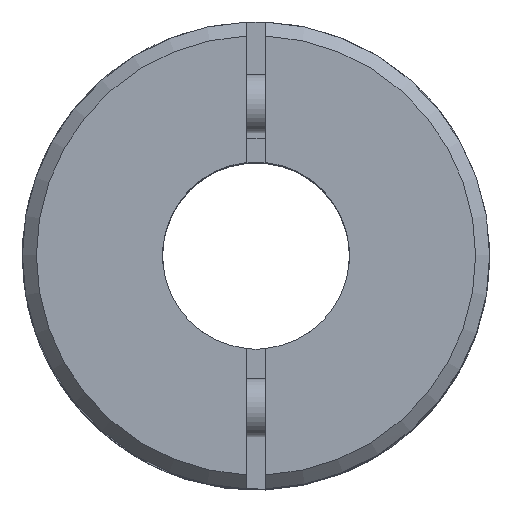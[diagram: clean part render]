
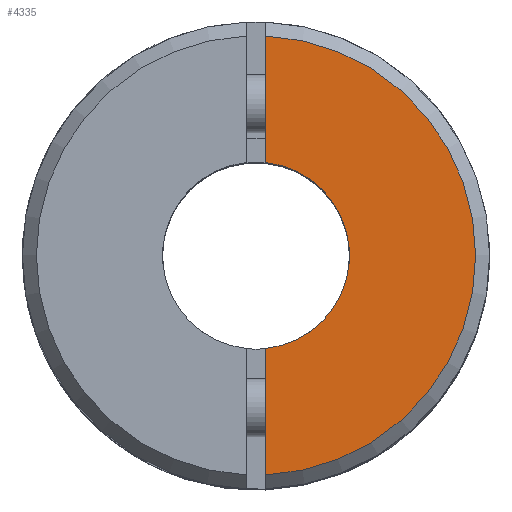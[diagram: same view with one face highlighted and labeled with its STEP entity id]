
A CAD part, top view. The second image highlights one B-rep face of the part: STEP entity #4335.
In plain terms, the highlighted planar face has unit normal (0, 0, 1).
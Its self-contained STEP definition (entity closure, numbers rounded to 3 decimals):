
#258 = CIRCLE ( 'NONE', #3426, 4. ) ;
#340 = VECTOR ( 'NONE', #1453, 1000. ) ;
#626 = CARTESIAN_POINT ( 'NONE',  ( 0.4, -3.98, 13. ) ) ;
#688 = EDGE_CURVE ( 'NONE', #1667, #1467, #4259, .T. ) ;
#691 = CARTESIAN_POINT ( 'NONE',  ( 0.4, 3.98, 13. ) ) ;
#747 = DIRECTION ( 'NONE',  ( 0., -1., 0. ) ) ;
#767 = ORIENTED_EDGE ( 'NONE', *, *, #688, .T. ) ;
#838 = DIRECTION ( 'NONE',  ( 0., 0., 1. ) ) ;
#888 = DIRECTION ( 'NONE',  ( 0., 0., 1. ) ) ;
#1039 = CARTESIAN_POINT ( 'NONE',  ( 0.4, -9.391, 13. ) ) ;
#1112 = EDGE_LOOP ( 'NONE', ( #767, #4209, #4140, #1451 ) ) ;
#1156 = DIRECTION ( 'NONE',  ( 0., 1., 0. ) ) ;
#1209 = EDGE_CURVE ( 'NONE', #1667, #1871, #258, .T. ) ;
#1274 = DIRECTION ( 'NONE',  ( 0., 0., -1. ) ) ;
#1451 = ORIENTED_EDGE ( 'NONE', *, *, #1209, .F. ) ;
#1453 = DIRECTION ( 'NONE',  ( 0., -1., 0. ) ) ;
#1467 = VERTEX_POINT ( 'NONE', #1039 ) ;
#1603 = DIRECTION ( 'NONE',  ( 0., 1., 0. ) ) ;
#1667 = VERTEX_POINT ( 'NONE', #626 ) ;
#1743 = EDGE_CURVE ( 'NONE', #4340, #1871, #2752, .T. ) ;
#1871 = VERTEX_POINT ( 'NONE', #691 ) ;
#2148 = CARTESIAN_POINT ( 'NONE',  ( 0.4, 9.391, 13. ) ) ;
#2443 = AXIS2_PLACEMENT_3D ( 'NONE', #3311, #1274, #1603 ) ;
#2752 = LINE ( 'NONE', #3074, #3645 ) ;
#2787 = FACE_OUTER_BOUND ( 'NONE', #1112, .T. ) ;
#3074 = CARTESIAN_POINT ( 'NONE',  ( 0.4, 15., 13. ) ) ;
#3097 = AXIS2_PLACEMENT_3D ( 'NONE', #4186, #838, #1156 ) ;
#3311 = CARTESIAN_POINT ( 'NONE',  ( 0., 4., 13. ) ) ;
#3426 = AXIS2_PLACEMENT_3D ( 'NONE', #3989, #888, #3567 ) ;
#3434 = EDGE_CURVE ( 'NONE', #1467, #4340, #3887, .T. ) ;
#3567 = DIRECTION ( 'NONE',  ( 0., -1., 0. ) ) ;
#3610 = CARTESIAN_POINT ( 'NONE',  ( 0.4, 15., 13. ) ) ;
#3645 = VECTOR ( 'NONE', #747, 1000. ) ;
#3887 = CIRCLE ( 'NONE', #3097, 9.4 ) ;
#3989 = CARTESIAN_POINT ( 'NONE',  ( 0., 0., 13. ) ) ;
#4140 = ORIENTED_EDGE ( 'NONE', *, *, #1743, .T. ) ;
#4144 = PLANE ( 'NONE',  #2443 ) ;
#4186 = CARTESIAN_POINT ( 'NONE',  ( 0., 0., 13. ) ) ;
#4209 = ORIENTED_EDGE ( 'NONE', *, *, #3434, .T. ) ;
#4259 = LINE ( 'NONE', #3610, #340 ) ;
#4335 = ADVANCED_FACE ( 'NONE', ( #2787 ), #4144, .F. ) ;
#4340 = VERTEX_POINT ( 'NONE', #2148 ) ;
